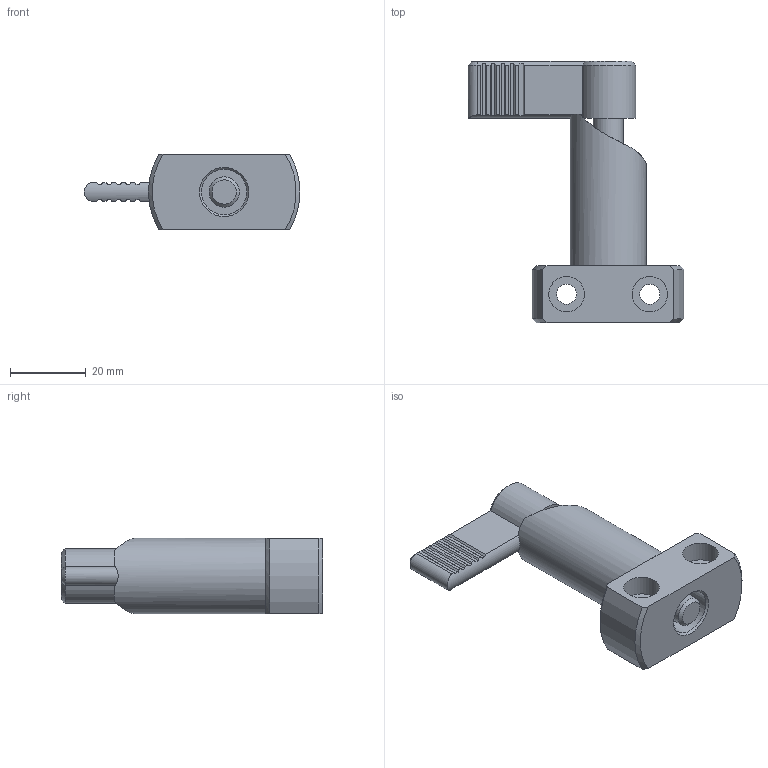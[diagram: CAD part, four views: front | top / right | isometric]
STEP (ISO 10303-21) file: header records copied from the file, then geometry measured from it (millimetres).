
FILE_DESCRIPTION( ( 'STEP AP203' ), '1' );
FILE_NAME( 'C:/Temp/Ganter_Step_05_03_2020/data/3_1/gn612_2/Indexing plunger GN 612.2-8-20-A (activated).stp', '2020-03-12T08:35:06', ( 'License CC BY-ND 4.0' ), ( 'CADENAS' ), ' ', 'PARTsolutions', ' ' );
FILE_SCHEMA( ( 'CONFIG_CONTROL_DESIGN' ) );
Length unit declared in the file: millimetre
Products named in the file (3): Indexing plunger GN 612.2-8-20-A (activated); _Rastriegel GN 612.2-8-20-A (betaetigt)-a; _Rastriegel GN 612.2-8-20-A (betaetigt)-b
Assembly tree (2 placements, depth 2):
  Indexing plunger GN 612.2-8-20-A (activated)
    _Rastriegel GN 612.2-8-20-A (betaetigt)-a
    _Rastriegel GN 612.2-8-20-A (betaetigt)-b
Bounding box: 57 x 69 x 20 mm (x, y, z)
Volume: 23101.9 mm3; surface area: 11729.7 mm2
Topology: 2 solids, 2 shells, 104 faces, 257 edges, 167 vertices
Faces by surface type: plane 64, cylinder 29, cone 10, torus 1
Full cylindrical faces by diameter (mm): 5.3 x2, 8 x3, 8.9 x1, 9.1 x1, 9.4 x4, 12 x2, 14.5 x1, 16 x1, 20 x1
Entity records: 3316 total; most frequent: CARTESIAN_POINT 817, DIRECTION 488, ORIENTED_EDGE 470, EDGE_CURVE 235, AXIS2_PLACEMENT_3D 178, VERTEX_POINT 165, EDGE_LOOP 140, LINE 132
